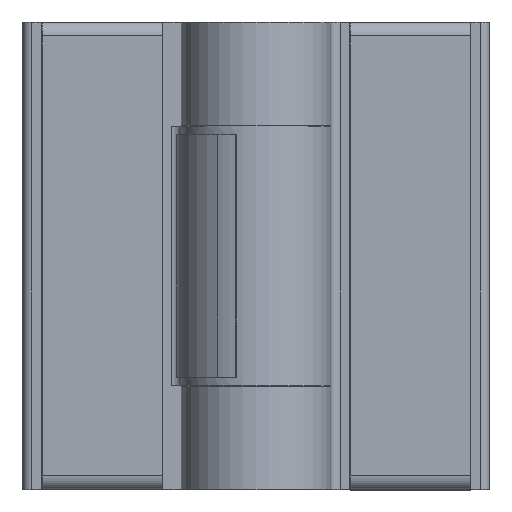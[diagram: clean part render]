
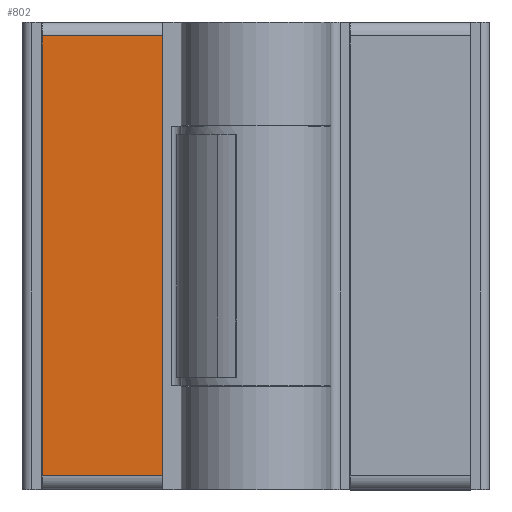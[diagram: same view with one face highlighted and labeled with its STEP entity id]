
A CAD part, top view. The second image highlights one B-rep face of the part: STEP entity #802.
In plain terms, the highlighted planar face has unit normal (0, 0, 1) as drawn and (0, 1, 0) by its records, which use the part's own axes.
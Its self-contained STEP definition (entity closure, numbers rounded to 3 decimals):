
#20 = ORIENTED_EDGE ( 'NONE', *, *, #1552, .T. ) ;
#24 = ORIENTED_EDGE ( 'NONE', *, *, #1551, .F. ) ;
#25 = ORIENTED_EDGE ( 'NONE', *, *, #1554, .T. ) ;
#27 = ORIENTED_EDGE ( 'NONE', *, *, #1553, .T. ) ;
#802 = ADVANCED_FACE ( 'NONE', ( #3280 ), #3025, .T. ) ;
#1283 = EDGE_LOOP ( 'NONE', ( #24, #20, #27, #25 ) ) ;
#1371 = VERTEX_POINT ( 'NONE', #4091 ) ;
#1372 = VERTEX_POINT ( 'NONE', #4092 ) ;
#1376 = VERTEX_POINT ( 'NONE', #4096 ) ;
#1382 = VERTEX_POINT ( 'NONE', #4102 ) ;
#1551 = EDGE_CURVE ( 'NONE', #1376, #1382, #3540, .T. ) ;
#1552 = EDGE_CURVE ( 'NONE', #1376, #1372, #3542, .T. ) ;
#1553 = EDGE_CURVE ( 'NONE', #1372, #1371, #3530, .T. ) ;
#1554 = EDGE_CURVE ( 'NONE', #1371, #1382, #3546, .T. ) ;
#3025 = PLANE ( 'NONE',  #3170 ) ;
#3026 = CARTESIAN_POINT ( 'NONE',  ( 0., 7.5, -12.9 ) ) ;
#3031 = DIRECTION ( 'NONE',  ( 0., 1., 0. ) ) ;
#3032 = DIRECTION ( 'NONE',  ( 0., 0., 1. ) ) ;
#3170 = AXIS2_PLACEMENT_3D ( 'NONE', #3026, #3031, #3032 ) ;
#3280 = FACE_OUTER_BOUND ( 'NONE', #1283, .T. ) ;
#3530 = LINE ( 'NONE', #4286, #3547 ) ;
#3540 = LINE ( 'NONE', #4405, #3543 ) ;
#3542 = LINE ( 'NONE', #4407, #3545 ) ;
#3543 = VECTOR ( 'NONE', #4406, 1000. ) ;
#3545 = VECTOR ( 'NONE', #4408, 1000. ) ;
#3546 = LINE ( 'NONE', #4410, #3549 ) ;
#3547 = VECTOR ( 'NONE', #4409, 1000. ) ;
#3549 = VECTOR ( 'NONE', #4411, 1000. ) ;
#4091 = CARTESIAN_POINT ( 'NONE',  ( 1.5, 7.5, -12.9 ) ) ;
#4092 = CARTESIAN_POINT ( 'NONE',  ( 48.6, 7.5, -12.9 ) ) ;
#4096 = CARTESIAN_POINT ( 'NONE',  ( 48.6, 7.5, 0. ) ) ;
#4102 = CARTESIAN_POINT ( 'NONE',  ( 1.5, 7.5, 0. ) ) ;
#4286 = CARTESIAN_POINT ( 'NONE',  ( 0., 7.5, -12.9 ) ) ;
#4405 = CARTESIAN_POINT ( 'NONE',  ( 0., 7.5, 0. ) ) ;
#4406 = DIRECTION ( 'NONE',  ( -1., 0., 0. ) ) ;
#4407 = CARTESIAN_POINT ( 'NONE',  ( 48.6, 7.5, -12.9 ) ) ;
#4408 = DIRECTION ( 'NONE',  ( 0., 0., -1. ) ) ;
#4409 = DIRECTION ( 'NONE',  ( -1., 0., 0. ) ) ;
#4410 = CARTESIAN_POINT ( 'NONE',  ( 1.5, 7.5, -12.9 ) ) ;
#4411 = DIRECTION ( 'NONE',  ( 0., 0., 1. ) ) ;
